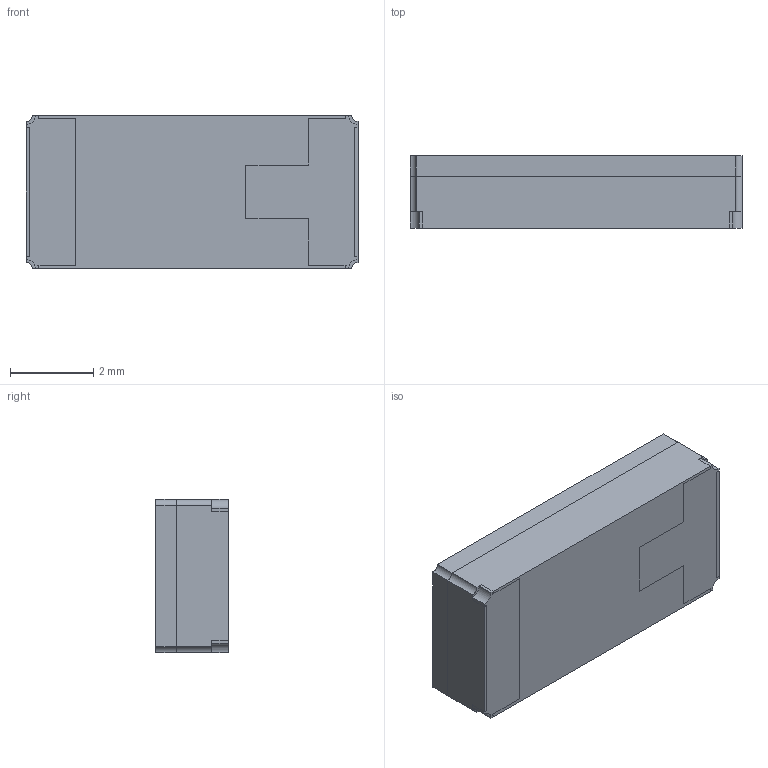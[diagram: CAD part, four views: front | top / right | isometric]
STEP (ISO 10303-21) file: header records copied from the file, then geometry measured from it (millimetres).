
FILE_DESCRIPTION (( 'STEP AP214' ), '1' );
FILE_NAME ('CC1A-T1A.STEP', '2021-05-20T02:22:06', ( '' ), ( '' ), 'SwSTEP 2.0', 'SolidWorks 2017', '' );
FILE_SCHEMA (( 'AUTOMOTIVE_DESIGN' ));
Length unit declared in the file: millimetre
Products named in the file (1): CC1A-T1A
Bounding box: 8 x 1.75 x 3.7 mm (x, y, z)
Volume: 51.6 mm3; surface area: 194.9 mm2
Topology: 4 solids, 4 shells, 80 faces, 216 edges, 144 vertices
Faces by surface type: plane 52, cylinder 28
Entity records: 2577 total; most frequent: CARTESIAN_POINT 441, DIRECTION 434, ORIENTED_EDGE 432, EDGE_CURVE 216, LINE 160, VECTOR 160, VERTEX_POINT 144, AXIS2_PLACEMENT_3D 137
